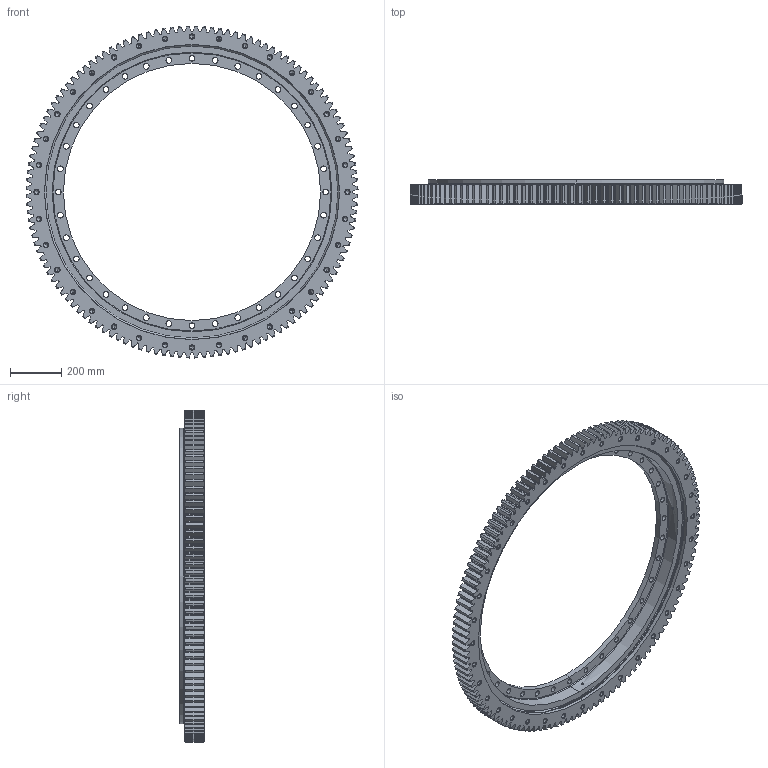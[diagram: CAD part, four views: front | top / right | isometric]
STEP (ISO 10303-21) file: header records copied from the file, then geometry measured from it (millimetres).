
FILE_DESCRIPTION (( 'STEP AP214' ), '1' );
FILE_NAME ('B1130-2-1298CA.STEP', '2022-11-24T06:40:05', ( '' ), ( '' ), 'SwSTEP 2.0', 'SolidWorks 2020', '' );
FILE_SCHEMA (( 'AUTOMOTIVE_DESIGN' ));
Length unit declared in the file: millimetre
Products named in the file (1): B1130-2-1298CA
Bounding box: 1297.8 x 95 x 1297.8 mm (x, y, z)
Volume: 28029365.9 mm3; surface area: 2820032.7 mm2
Topology: 4 solids, 4 shells, 1260 faces, 3590 edges, 2306 vertices
Faces by surface type: cone 410, cylinder 314, plane 278, bspline 256, torus 2
Entity records: 42643 total; most frequent: CARTESIAN_POINT 12493, ORIENTED_EDGE 7036, DIRECTION 5184, EDGE_CURVE 3518, VERTEX_POINT 2306, AXIS2_PLACEMENT_3D 1969, EDGE_LOOP 1388, B_SPLINE_CURVE_WITH_KNOTS 1308
